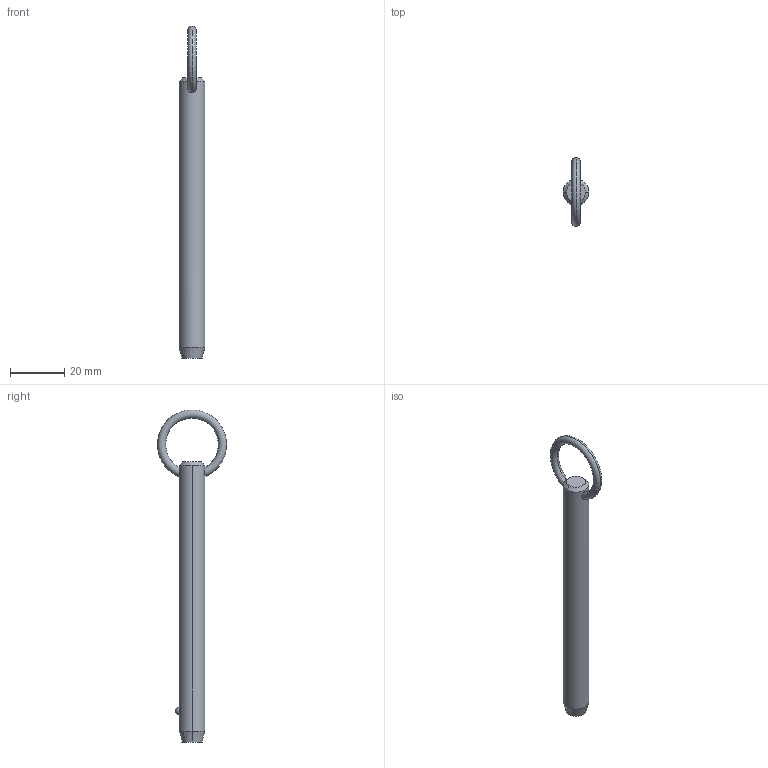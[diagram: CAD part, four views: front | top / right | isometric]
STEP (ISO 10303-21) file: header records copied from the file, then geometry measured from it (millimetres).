
FILE_DESCRIPTION (( 'STEP AP203' ), '1' );
FILE_NAME ('P1250.037-330.step', '2019-07-29T20:04:30', ( '' ), ( '' ), 'SwSTEP 2.0', 'SolidWorks 2017', '' );
FILE_SCHEMA (( 'CONFIG_CONTROL_DESIGN' ));
Length unit declared in the file: millimetre
Products named in the file (1): P1250.037-330
Bounding box: 9.52 x 25.39 x 121.9 mm (x, y, z)
Volume: 7672.1 mm3; surface area: 3718.2 mm2
Topology: 1 solids, 1 shells, 12 faces, 28 edges, 17 vertices
Faces by surface type: cone 4, torus 2, sphere 2, cylinder 2, plane 2
Entity records: 523 total; most frequent: CARTESIAN_POINT 190, DIRECTION 56, ORIENTED_EDGE 48, AXIS2_PLACEMENT_3D 25, EDGE_CURVE 24, EDGE_LOOP 15, VERTEX_POINT 15, FACE_OUTER_BOUND 12
